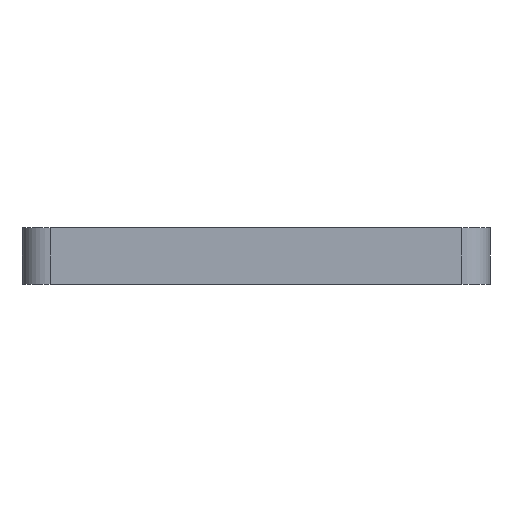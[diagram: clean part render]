
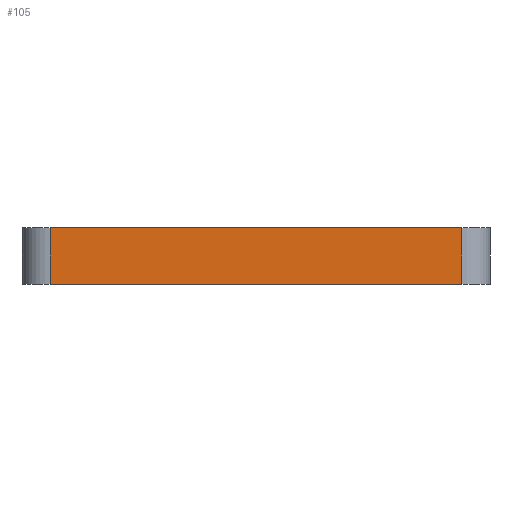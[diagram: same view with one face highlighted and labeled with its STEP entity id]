
A CAD part, left-side view. The second image highlights one B-rep face of the part: STEP entity #105.
In plain terms, the highlighted planar face has unit normal (-1, 0, 0).
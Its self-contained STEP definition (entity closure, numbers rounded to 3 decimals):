
#105=ADVANCED_FACE('23',(#225),#226,.T.);
#225=FACE_OUTER_BOUND('',#354,.T.);
#226=PLANE('',#355);
#354=EDGE_LOOP('',(#724,#725,#726,#727));
#355=AXIS2_PLACEMENT_3D('',#728,#729,#730);
#724=ORIENTED_EDGE('',*,*,#938,.F.);
#725=ORIENTED_EDGE('',*,*,#935,.T.);
#726=ORIENTED_EDGE('',*,*,#940,.F.);
#727=ORIENTED_EDGE('',*,*,#909,.T.);
#728=CARTESIAN_POINT('',(-62.5,12.5,0.0));
#729=DIRECTION('',(-1.0,0.0,0.0));
#730=DIRECTION('',(0.0,1.0,0.0));
#909=EDGE_CURVE('',#1084,#1082,#1085,.T.);
#935=EDGE_CURVE('',#1130,#1128,#1131,.T.);
#938=EDGE_CURVE('',#1130,#1082,#1134,.T.);
#940=EDGE_CURVE('',#1084,#1128,#1136,.T.);
#1082=VERTEX_POINT('',#1530);
#1084=VERTEX_POINT('',#1532);
#1085=LINE('',#1533,#1534);
#1128=VERTEX_POINT('',#1589);
#1130=VERTEX_POINT('',#1591);
#1131=LINE('',#1592,#1593);
#1134=LINE('',#1596,#1597);
#1136=LINE('',#1599,#1600);
#1530=CARTESIAN_POINT('',(-62.5,23.5,0.0));
#1532=CARTESIAN_POINT('',(-62.5,1.5,0.0));
#1533=CARTESIAN_POINT('',(-62.5,0.,0.0));
#1534=VECTOR('',#1700,1.0);
#1589=CARTESIAN_POINT('',(-62.5,1.5,-3.0));
#1591=CARTESIAN_POINT('',(-62.5,23.5,-3.0));
#1592=CARTESIAN_POINT('',(-62.5,0.,-3.0));
#1593=VECTOR('',#1743,1.0);
#1596=CARTESIAN_POINT('',(-62.5,23.5,0.0));
#1597=VECTOR('',#1747,1.0);
#1599=CARTESIAN_POINT('',(-62.5,1.5,0.0));
#1600=VECTOR('',#1748,1.0);
#1700=DIRECTION('',(0.0,1.0,0.0));
#1743=DIRECTION('',(-0.0,-1.0,-0.0));
#1747=DIRECTION('',(-0.0,-0.0,1.0));
#1748=DIRECTION('',(0.0,-0.0,-1.0));
